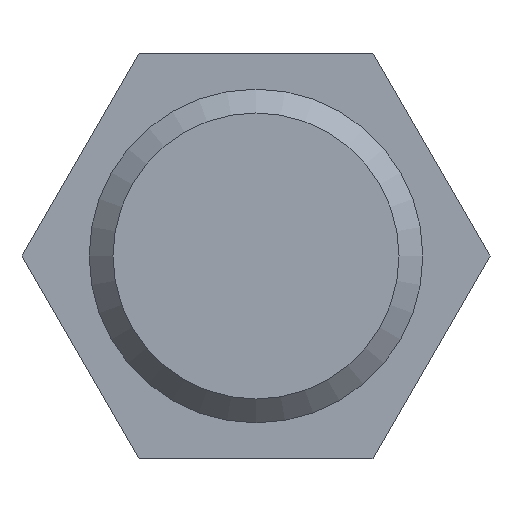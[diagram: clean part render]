
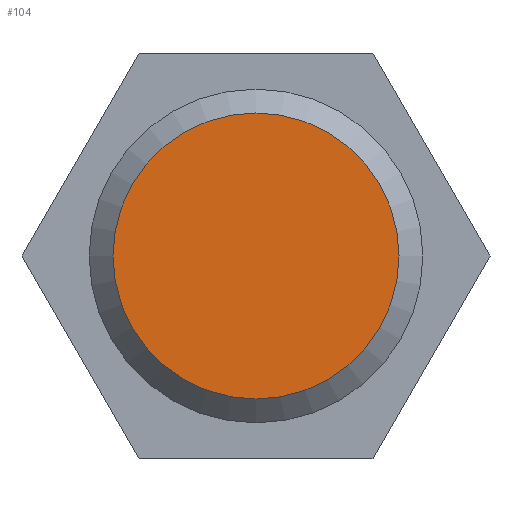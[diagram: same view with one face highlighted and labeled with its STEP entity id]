
A CAD part, left-side view. The second image highlights one B-rep face of the part: STEP entity #104.
In plain terms, the highlighted planar face has unit normal (-1, 0, 0).
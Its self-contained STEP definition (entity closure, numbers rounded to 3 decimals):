
#73=CARTESIAN_POINT('',(0.,6.0,0.));
#74=VERTEX_POINT('',#73);
#75=CARTESIAN_POINT('',(0.,0.0,0.0));
#76=DIRECTION('',(1.0,0.0,0.0));
#77=DIRECTION('',(0.0,-1.0,0.0));
#78=AXIS2_PLACEMENT_3D('',#75,#76,#77);
#79=CIRCLE('',#78,6.0);
#80=EDGE_CURVE('',#74,#74,#79,.T.);
#96=CARTESIAN_POINT('',(0.,3.5,0.0));
#97=DIRECTION('',(-1.0,0.0,0.0));
#98=DIRECTION('',(0.0,0.0,1.0));
#99=AXIS2_PLACEMENT_3D('',#96,#97,#98);
#100=PLANE('',#99);
#101=ORIENTED_EDGE('',*,*,#80,.F.);
#102=EDGE_LOOP('',(#101));
#103=FACE_OUTER_BOUND('',#102,.T.);
#104=ADVANCED_FACE('',(#103),#100,.T.);
